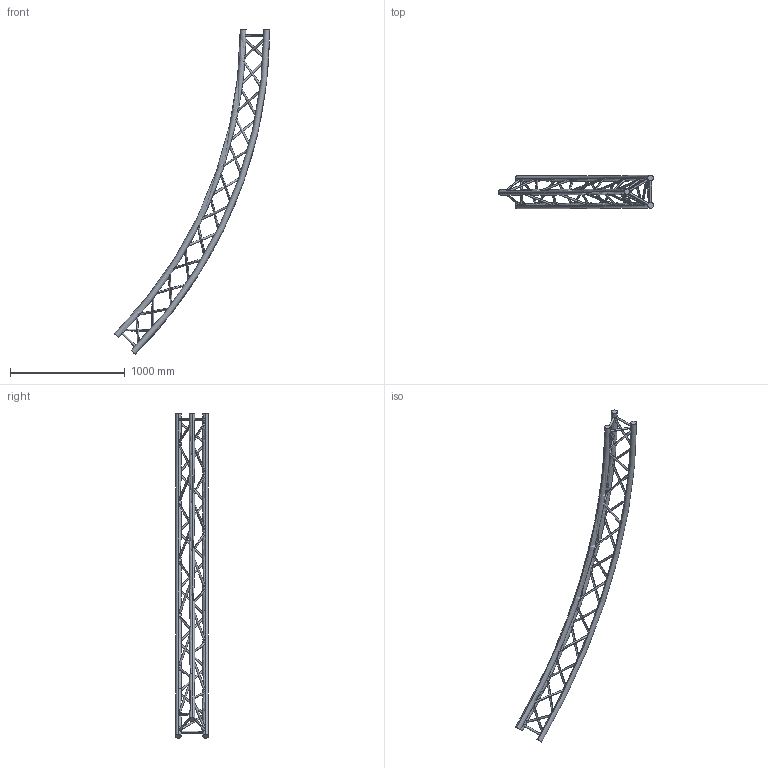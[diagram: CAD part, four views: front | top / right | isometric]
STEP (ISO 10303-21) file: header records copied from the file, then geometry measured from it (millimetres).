
FILE_DESCRIPTION (( 'STEP AP203' ), '1' );
FILE_NAME ('SXC29800PI.STEP', '2009-10-21T09:02:03', ( 'CEDIA' ), ( 'CEDIA INDUSTRIE' ), 'SwSTEP 2.0', 'SolidWorks 2009', '' );
FILE_SCHEMA (( 'CONFIG_CONTROL_DESIGN' ));
Length unit declared in the file: millimetre
Products named in the file (1): SXC29800PI
Bounding box: 1352.06 x 287 x 2828.43 mm (x, y, z)
Volume: 20236101.8 mm3; surface area: 1977173.3 mm2
Topology: 1 solids, 1 shells, 96 faces, 270 edges, 180 vertices
Faces by surface type: cylinder 84, torus 6, plane 6
Entity records: 10745 total; most frequent: CARTESIAN_POINT 8339, ORIENTED_EDGE 540, DIRECTION 314, EDGE_CURVE 270, EDGE_LOOP 180, VERTEX_POINT 180, B_SPLINE_CURVE_WITH_KNOTS 168, AXIS2_PLACEMENT_3D 115
